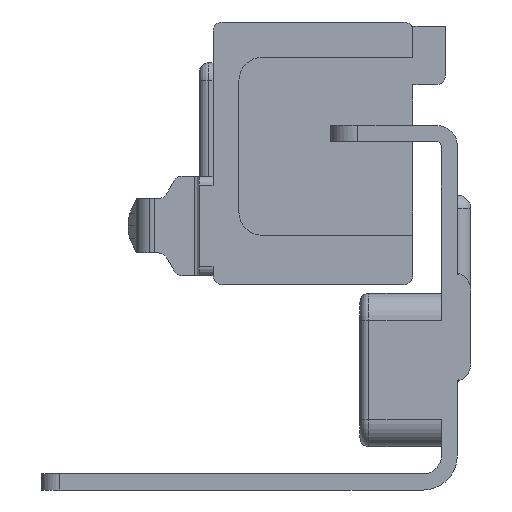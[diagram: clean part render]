
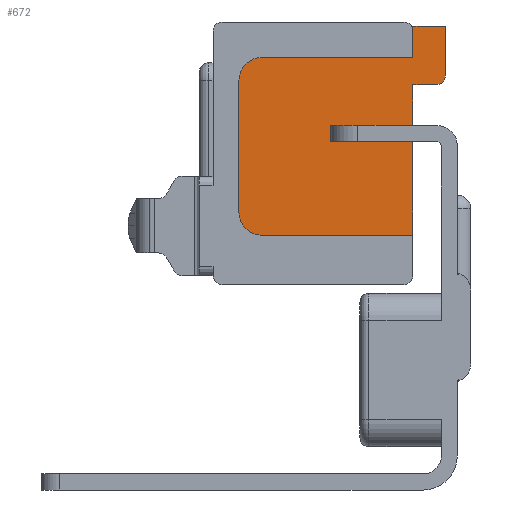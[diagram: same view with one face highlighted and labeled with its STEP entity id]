
A CAD part, left-side view. The second image highlights one B-rep face of the part: STEP entity #672.
In plain terms, the highlighted planar face has unit normal (-1, 0, 0).
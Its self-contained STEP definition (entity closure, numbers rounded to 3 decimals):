
#28 = CARTESIAN_POINT ( 'NONE',  ( -64.3, 24.13, 67.425 ) ) ;
#148 = VERTEX_POINT ( 'NONE', #3923 ) ;
#183 = DIRECTION ( 'NONE',  ( 0., -1., 0. ) ) ;
#230 = AXIS2_PLACEMENT_3D ( 'NONE', #1174, #1249, #1282 ) ;
#245 = CARTESIAN_POINT ( 'NONE',  ( -64.3, 4.9, 77.06 ) ) ;
#419 = CARTESIAN_POINT ( 'NONE',  ( -64.3, 1.33, 88.025 ) ) ;
#542 = CARTESIAN_POINT ( 'NONE',  ( -64.3, 1.33, 82.555 ) ) ;
#550 = DIRECTION ( 'NONE',  ( 0., 0., 1. ) ) ;
#559 = EDGE_CURVE ( 'NONE', #4873, #4423, #5214, .T. ) ;
#665 = DIRECTION ( 'NONE',  ( 0., 0., 1. ) ) ;
#672 = ADVANCED_FACE ( 'NONE', ( #7365 ), #1205, .F. ) ;
#689 = DIRECTION ( 'NONE',  ( -1., 0., 0. ) ) ;
#709 = DIRECTION ( 'NONE',  ( 0., 1., 0. ) ) ;
#773 = CARTESIAN_POINT ( 'NONE',  ( -64.3, 21.63, 82.055 ) ) ;
#888 = LINE ( 'NONE', #3368, #3700 ) ;
#895 = ORIENTED_EDGE ( 'NONE', *, *, #3286, .F. ) ;
#910 = DIRECTION ( 'NONE',  ( 0., 0., -1. ) ) ;
#1085 = ORIENTED_EDGE ( 'NONE', *, *, #3186, .T. ) ;
#1127 = CARTESIAN_POINT ( 'NONE',  ( -64.3, 14., 77.06 ) ) ;
#1132 = VERTEX_POINT ( 'NONE', #245 ) ;
#1174 = CARTESIAN_POINT ( 'NONE',  ( -64.3, 21.53, 73.625 ) ) ;
#1205 = PLANE ( 'NONE',  #230 ) ;
#1219 = EDGE_CURVE ( 'NONE', #5955, #4089, #5254, .T. ) ;
#1249 = DIRECTION ( 'NONE',  ( 1., 0., 0. ) ) ;
#1282 = DIRECTION ( 'NONE',  ( 0., 0., 1. ) ) ;
#1354 = LINE ( 'NONE', #5700, #2963 ) ;
#1361 = VECTOR ( 'NONE', #4411, 1000. ) ;
#1508 = ORIENTED_EDGE ( 'NONE', *, *, #4813, .F. ) ;
#1705 = LINE ( 'NONE', #5040, #6554 ) ;
#1749 = EDGE_CURVE ( 'NONE', #5029, #148, #2134, .T. ) ;
#1895 = CARTESIAN_POINT ( 'NONE',  ( -64.3, 4.9, 81.555 ) ) ;
#1900 = CARTESIAN_POINT ( 'NONE',  ( -64.3, 2.33, 81.555 ) ) ;
#1983 = LINE ( 'NONE', #28, #2165 ) ;
#1989 = VERTEX_POINT ( 'NONE', #6589 ) ;
#2114 = EDGE_CURVE ( 'NONE', #1132, #7388, #888, .T. ) ;
#2134 = LINE ( 'NONE', #7541, #6418 ) ;
#2165 = VECTOR ( 'NONE', #3070, 1000. ) ;
#2247 = DIRECTION ( 'NONE',  ( 1., 0., 0. ) ) ;
#2295 = CARTESIAN_POINT ( 'NONE',  ( -64.3, 20.06, 81.555 ) ) ;
#2334 = CARTESIAN_POINT ( 'NONE',  ( -64.3, 21.63, 67.425 ) ) ;
#2485 = VECTOR ( 'NONE', #6366, 1000. ) ;
#2579 = VECTOR ( 'NONE', #183, 1000. ) ;
#2588 = LINE ( 'NONE', #5146, #5487 ) ;
#2620 = ORIENTED_EDGE ( 'NONE', *, *, #5112, .F. ) ;
#2743 = ORIENTED_EDGE ( 'NONE', *, *, #6652, .T. ) ;
#2908 = EDGE_CURVE ( 'NONE', #7369, #5086, #4679, .T. ) ;
#2947 = DIRECTION ( 'NONE',  ( 0., 0., 1. ) ) ;
#2963 = VECTOR ( 'NONE', #6072, 1000. ) ;
#2994 = EDGE_CURVE ( 'NONE', #5350, #7396, #2588, .T. ) ;
#3024 = CARTESIAN_POINT ( 'NONE',  ( -64.3, 24.13, 82.055 ) ) ;
#3063 = CARTESIAN_POINT ( 'NONE',  ( -64.3, 21.63, 84.555 ) ) ;
#3070 = DIRECTION ( 'NONE',  ( 0., 0., -1. ) ) ;
#3166 = ORIENTED_EDGE ( 'NONE', *, *, #1749, .F. ) ;
#3186 = EDGE_CURVE ( 'NONE', #5029, #5955, #1354, .T. ) ;
#3199 = LINE ( 'NONE', #4842, #6081 ) ;
#3286 = EDGE_CURVE ( 'NONE', #4873, #7039, #3764, .T. ) ;
#3368 = CARTESIAN_POINT ( 'NONE',  ( -64.3, 4.9, 64.925 ) ) ;
#3470 = AXIS2_PLACEMENT_3D ( 'NONE', #5717, #2247, #6305 ) ;
#3673 = VECTOR ( 'NONE', #550, 1000. ) ;
#3700 = VECTOR ( 'NONE', #6847, 1000. ) ;
#3754 = CIRCLE ( 'NONE', #3470, 1. ) ;
#3764 = LINE ( 'NONE', #6841, #2579 ) ;
#3923 = CARTESIAN_POINT ( 'NONE',  ( -64.3, 4.9, 88.025 ) ) ;
#4012 = DIRECTION ( 'NONE',  ( 0., 0., 1. ) ) ;
#4089 = VERTEX_POINT ( 'NONE', #3024 ) ;
#4155 = VERTEX_POINT ( 'NONE', #1900 ) ;
#4223 = LINE ( 'NONE', #2295, #2485 ) ;
#4250 = ORIENTED_EDGE ( 'NONE', *, *, #2908, .T. ) ;
#4388 = CARTESIAN_POINT ( 'NONE',  ( -64.3, 4.9, 84.555 ) ) ;
#4411 = DIRECTION ( 'NONE',  ( 0., -1., 0. ) ) ;
#4422 = CARTESIAN_POINT ( 'NONE',  ( -64.3, 4.9, 75.29 ) ) ;
#4423 = VERTEX_POINT ( 'NONE', #1127 ) ;
#4459 = CARTESIAN_POINT ( 'NONE',  ( -64.3, 21.53, 64.925 ) ) ;
#4560 = DIRECTION ( 'NONE',  ( 0., 1., 0. ) ) ;
#4650 = ORIENTED_EDGE ( 'NONE', *, *, #2114, .T. ) ;
#4679 = LINE ( 'NONE', #4459, #1361 ) ;
#4802 = EDGE_CURVE ( 'NONE', #7396, #148, #5289, .T. ) ;
#4813 = EDGE_CURVE ( 'NONE', #5350, #4155, #3754, .T. ) ;
#4820 = CARTESIAN_POINT ( 'NONE',  ( -64.3, 21.63, 64.925 ) ) ;
#4842 = CARTESIAN_POINT ( 'NONE',  ( -64.3, 12.42, 77.06 ) ) ;
#4873 = VERTEX_POINT ( 'NONE', #7503 ) ;
#4960 = ORIENTED_EDGE ( 'NONE', *, *, #4802, .T. ) ;
#5014 = CARTESIAN_POINT ( 'NONE',  ( -64.3, 4.9, 64.925 ) ) ;
#5029 = VERTEX_POINT ( 'NONE', #4388 ) ;
#5040 = CARTESIAN_POINT ( 'NONE',  ( -64.3, 4.9, 73.625 ) ) ;
#5086 = VERTEX_POINT ( 'NONE', #5014 ) ;
#5089 = AXIS2_PLACEMENT_3D ( 'NONE', #773, #689, #665 ) ;
#5112 = EDGE_CURVE ( 'NONE', #7039, #5086, #1705, .T. ) ;
#5146 = CARTESIAN_POINT ( 'NONE',  ( -64.3, 1.33, 81.555 ) ) ;
#5153 = ORIENTED_EDGE ( 'NONE', *, *, #6666, .T. ) ;
#5214 = LINE ( 'NONE', #7481, #3673 ) ;
#5254 = CIRCLE ( 'NONE', #5089, 2.5 ) ;
#5289 = LINE ( 'NONE', #419, #6819 ) ;
#5350 = VERTEX_POINT ( 'NONE', #542 ) ;
#5392 = CIRCLE ( 'NONE', #6693, 2.5 ) ;
#5487 = VECTOR ( 'NONE', #6785, 1000. ) ;
#5700 = CARTESIAN_POINT ( 'NONE',  ( -64.3, 4.9, 84.555 ) ) ;
#5717 = CARTESIAN_POINT ( 'NONE',  ( -64.3, 2.33, 82.555 ) ) ;
#5955 = VERTEX_POINT ( 'NONE', #3063 ) ;
#5957 = EDGE_LOOP ( 'NONE', ( #6177, #4650, #2743, #1508, #7391, #4960, #3166, #1085, #6959, #6235, #5153, #4250, #2620, #895, #6546 ) ) ;
#6072 = DIRECTION ( 'NONE',  ( 0., 1., 0. ) ) ;
#6081 = VECTOR ( 'NONE', #709, 1000. ) ;
#6177 = ORIENTED_EDGE ( 'NONE', *, *, #7408, .F. ) ;
#6235 = ORIENTED_EDGE ( 'NONE', *, *, #7334, .T. ) ;
#6305 = DIRECTION ( 'NONE',  ( 0., 0., 1. ) ) ;
#6366 = DIRECTION ( 'NONE',  ( 0., -1., 0. ) ) ;
#6388 = DIRECTION ( 'NONE',  ( -1., 0., 0. ) ) ;
#6418 = VECTOR ( 'NONE', #4012, 1000. ) ;
#6546 = ORIENTED_EDGE ( 'NONE', *, *, #559, .T. ) ;
#6554 = VECTOR ( 'NONE', #910, 1000. ) ;
#6589 = CARTESIAN_POINT ( 'NONE',  ( -64.3, 24.13, 67.425 ) ) ;
#6652 = EDGE_CURVE ( 'NONE', #7388, #4155, #4223, .T. ) ;
#6666 = EDGE_CURVE ( 'NONE', #1989, #7369, #5392, .T. ) ;
#6693 = AXIS2_PLACEMENT_3D ( 'NONE', #2334, #6388, #2947 ) ;
#6785 = DIRECTION ( 'NONE',  ( 0., 0., 1. ) ) ;
#6819 = VECTOR ( 'NONE', #4560, 1000. ) ;
#6841 = CARTESIAN_POINT ( 'NONE',  ( -64.3, 12.15, 75.29 ) ) ;
#6847 = DIRECTION ( 'NONE',  ( 0., 0., 1. ) ) ;
#6959 = ORIENTED_EDGE ( 'NONE', *, *, #1219, .T. ) ;
#7039 = VERTEX_POINT ( 'NONE', #4422 ) ;
#7153 = CARTESIAN_POINT ( 'NONE',  ( -64.3, 1.33, 88.025 ) ) ;
#7334 = EDGE_CURVE ( 'NONE', #4089, #1989, #1983, .T. ) ;
#7365 = FACE_OUTER_BOUND ( 'NONE', #5957, .T. ) ;
#7369 = VERTEX_POINT ( 'NONE', #4820 ) ;
#7388 = VERTEX_POINT ( 'NONE', #1895 ) ;
#7391 = ORIENTED_EDGE ( 'NONE', *, *, #2994, .T. ) ;
#7396 = VERTEX_POINT ( 'NONE', #7153 ) ;
#7408 = EDGE_CURVE ( 'NONE', #1132, #4423, #3199, .T. ) ;
#7481 = CARTESIAN_POINT ( 'NONE',  ( -64.3, 14., 75.29 ) ) ;
#7503 = CARTESIAN_POINT ( 'NONE',  ( -64.3, 14., 75.29 ) ) ;
#7541 = CARTESIAN_POINT ( 'NONE',  ( -64.3, 4.9, 88.025 ) ) ;
